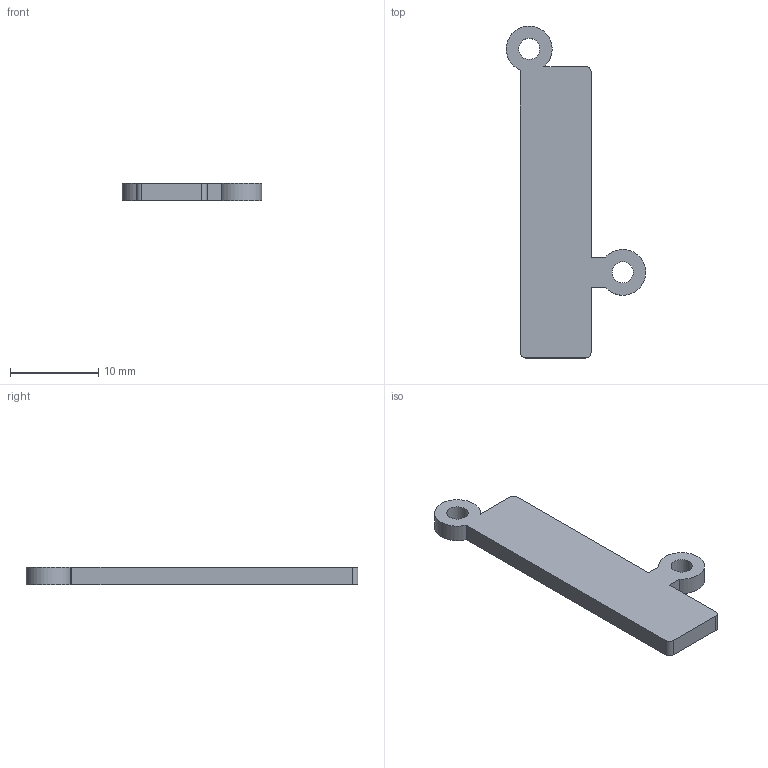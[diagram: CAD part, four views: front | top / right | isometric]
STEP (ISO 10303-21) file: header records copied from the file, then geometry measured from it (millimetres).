
FILE_DESCRIPTION(/* description */ (''),/* implementation_level */ '2;1');
FILE_NAME(/* name */ 'P20.step',/* time_stamp */ '2026-09-14T14:31:13-07:00',/* author */ (''),/* organization */ (''),/* preprocessor_version */ 'ST-DEVELOPER v20.1',/* originating_system */ 'Autodesk Translation Framework v15.8.0.0',/* authorisation */ '');
FILE_SCHEMA (('AUTOMOTIVE_DESIGN { 1 0 10303 214 3 1 1 }'));
Length unit declared in the file: millimetre
Products named in the file (1): 2026-09-14-14-31-13-205
Bounding box: 15.8 x 37.6 x 2 mm (x, y, z)
Volume: 600.1 mm3; surface area: 838.7 mm2
Topology: 1 solids, 1 shells, 17 faces, 45 edges, 30 vertices
Faces by surface type: plane 9, cylinder 8
Full cylindrical faces by diameter (mm): 2.4 x2
Entity records: 576 total; most frequent: DIRECTION 97, CARTESIAN_POINT 93, ORIENTED_EDGE 90, EDGE_CURVE 45, AXIS2_PLACEMENT_3D 34, VERTEX_POINT 30, LINE 29, VECTOR 29
